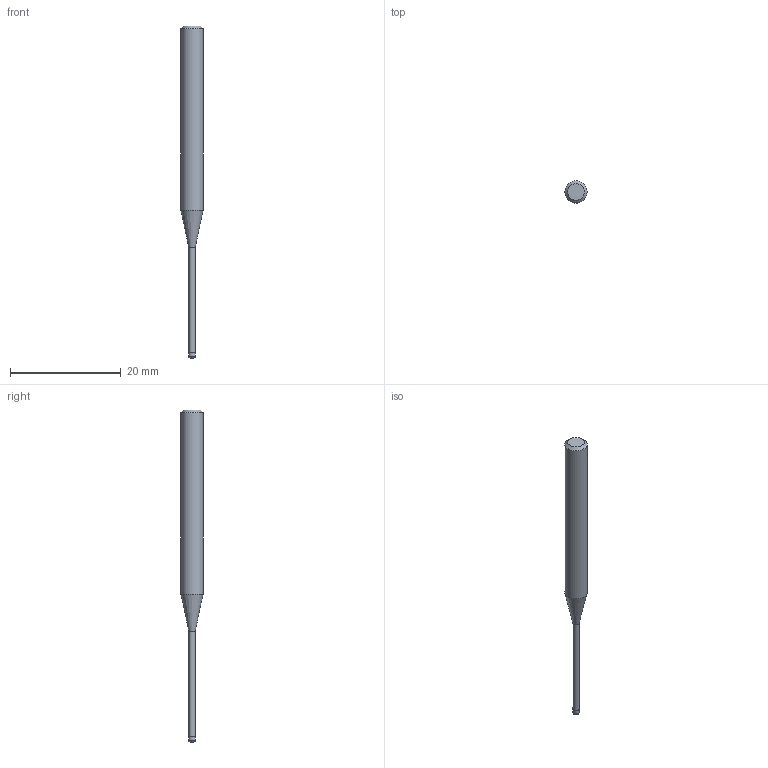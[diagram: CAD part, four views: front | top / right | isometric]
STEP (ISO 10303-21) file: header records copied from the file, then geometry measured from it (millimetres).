
FILE_DESCRIPTION((''),'2;1');
FILE_NAME('C:\Users\nsx150\AppData\Local\Temp\Mastercam 2021\17T8Q8S9EB\TEMP.step','2021-04-21T14:35:23',(''),(''),'STEP Write','Mastercam 2021 ... CNC Software, Inc.','');
FILE_SCHEMA(('AUTOMOTIVE_DESIGN'));
Length unit declared in the file: millimetre
Products named in the file (1): None
Bounding box: 4 x 4 x 60 mm (x, y, z)
Volume: 475.6 mm3; surface area: 556.8 mm2
Topology: 2 solids, 2 shells, 10 faces, 14 edges, 8 vertices
Faces by surface type: plane 4, cylinder 3, cone 2, torus 1
Full cylindrical faces by diameter (mm): 1.14 x1, 1.2 x1, 4 x1
Entity records: 232 total; most frequent: DIRECTION 40, CARTESIAN_POINT 28, AXIS2_PLACEMENT_3D 20, ORIENTED_EDGE 16, EDGE_LOOP 16, STYLED_ITEM 13, ADVANCED_FACE 10, FACE_BOUND 10
